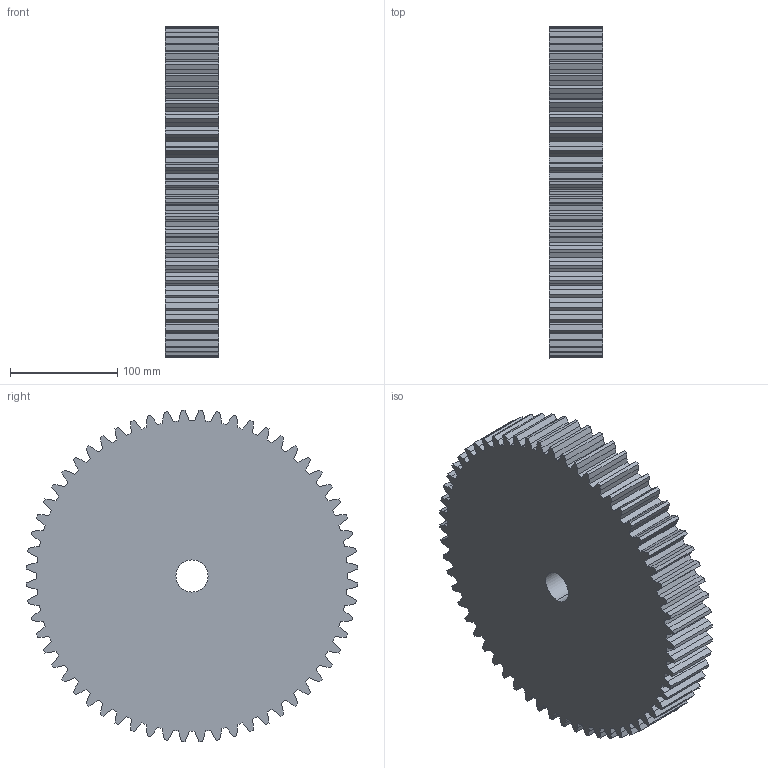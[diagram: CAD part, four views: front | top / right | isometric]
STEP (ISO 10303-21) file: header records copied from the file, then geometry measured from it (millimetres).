
FILE_DESCRIPTION (( 'STEP AP203' ), '1' );
FILE_NAME ('CM 32060.STEP', '2013-09-23T11:30:04', ( '' ), ( '' ), 'SwSTEP 2.0', 'SolidWorks 2010', '' );
FILE_SCHEMA (( 'CONFIG_CONTROL_DESIGN' ));
Length unit declared in the file: millimetre
Products named in the file (1): CM 32060
Bounding box: 50 x 309.73 x 309.73 mm (x, y, z)
Volume: 3473669.5 mm3; surface area: 232680.8 mm2
Topology: 1 solids, 1 shells, 365 faces, 1089 edges, 726 vertices
Faces by surface type: plane 242, cylinder 123
Entity records: 12810 total; most frequent: CARTESIAN_POINT 4233, ORIENTED_EDGE 2178, DIRECTION 1179, EDGE_CURVE 1089, VERTEX_POINT 726, B_SPLINE_CURVE_WITH_KNOTS 684, AXIS2_PLACEMENT_3D 408, EDGE_LOOP 367
